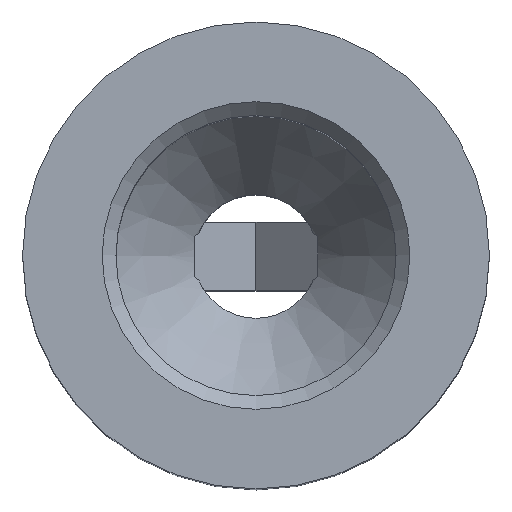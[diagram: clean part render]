
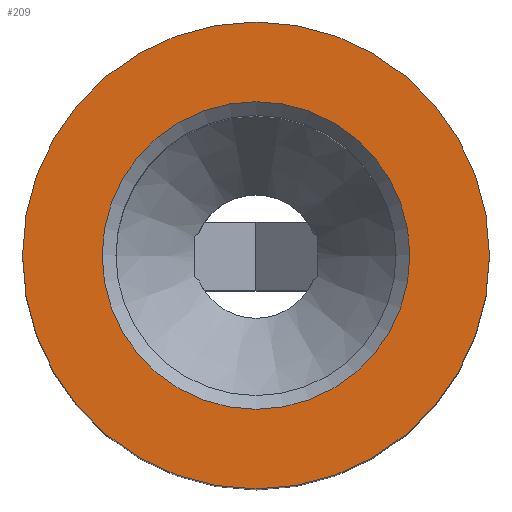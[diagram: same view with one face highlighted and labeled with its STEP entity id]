
A CAD part, top view. The second image highlights one B-rep face of the part: STEP entity #209.
In plain terms, the highlighted planar face has unit normal (0, 0, 1).
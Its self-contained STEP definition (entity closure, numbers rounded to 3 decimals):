
#209=ADVANCED_FACE('',(#2096,#2098),#2100,.T.);
#2096=FACE_BOUND('',#2097,.T.);
#2097=EDGE_LOOP('',(#3074));
#2098=FACE_BOUND('',#2099,.T.);
#2099=EDGE_LOOP('',(#3075));
#2100=PLANE('',#2101);
#2101=AXIS2_PLACEMENT_3D('',#2102,#2103,#2104);
#2102=CARTESIAN_POINT('',(0.,0.,31.));
#2103=DIRECTION('',(0.,0.,1.));
#2104=DIRECTION('',(-1.,0.,0.));
#3074=ORIENTED_EDGE('',*,*,#3226,.F.);
#3075=ORIENTED_EDGE('',*,*,#3209,.T.);
#3209=EDGE_CURVE('',#3345,#3345,#3346,.T.);
#3226=EDGE_CURVE('',#3376,#3376,#3377,.T.);
#3345=VERTEX_POINT('',#3797);
#3346=CIRCLE('',#3798,5.6);
#3376=VERTEX_POINT('',#4762);
#3377=CIRCLE('',#4763,8.5);
#3797=CARTESIAN_POINT('',(-5.6,0.,31.));
#3798=AXIS2_PLACEMENT_3D('',#3799,#3800,#3801);
#3799=CARTESIAN_POINT('',(0.,0.,31.));
#3800=DIRECTION('',(0.,0.,-1.));
#3801=DIRECTION('',(-1.,0.,0.));
#4762=CARTESIAN_POINT('',(-8.5,0.,31.));
#4763=AXIS2_PLACEMENT_3D('',#4764,#4765,#4766);
#4764=CARTESIAN_POINT('',(0.,0.,31.));
#4765=DIRECTION('',(0.,0.,-1.));
#4766=DIRECTION('',(-1.,0.,0.));
